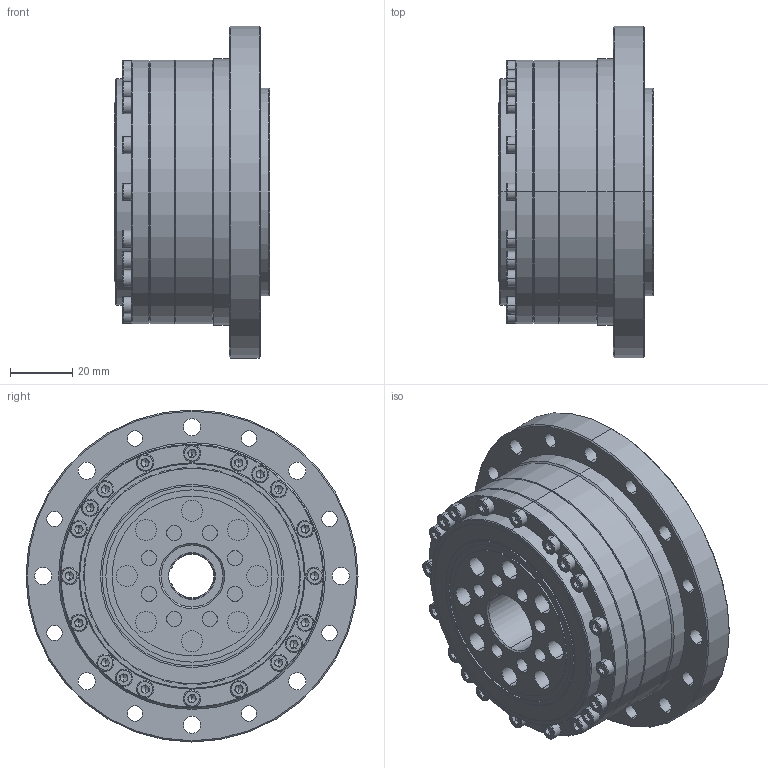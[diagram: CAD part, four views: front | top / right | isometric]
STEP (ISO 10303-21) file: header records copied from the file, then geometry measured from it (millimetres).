
FILE_DESCRIPTION (( 'STEP AP203' ), '1' );
FILE_NAME ('FXCSG-I炵蹈迣疏熬厒ん[LCSG-25-XXX-C-I].STEP', '2020-07-21T15:25:13', ( '' ), ( '' ), 'SwSTEP 2.0', 'SolidWorks 2016', '' );
FILE_SCHEMA (( 'CONFIG_CONTROL_DESIGN' ));
Length unit declared in the file: millimetre
Products named in the file (1): FXCSG-I炵蹈迣疏熬厒ん[LCSG-25-XXX-C-I]
Bounding box: 50 x 107 x 107 mm (x, y, z)
Volume: 234512.4 mm3; surface area: 81251.2 mm2
Topology: 43 solids, 43 shells, 2712 faces, 7320 edges, 4702 vertices
Faces by surface type: plane 1521, bspline 730, cylinder 301, cone 160
Entity records: 110846 total; most frequent: CARTESIAN_POINT 47149, ORIENTED_EDGE 14360, DIRECTION 11214, EDGE_CURVE 7180, VERTEX_POINT 4702, LINE 4524, VECTOR 4524, AXIS2_PLACEMENT_3D 3345
